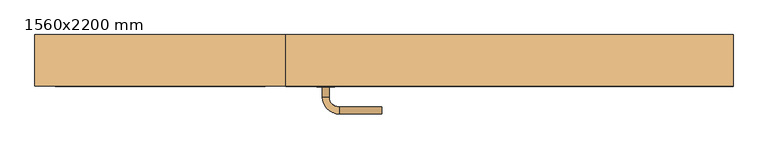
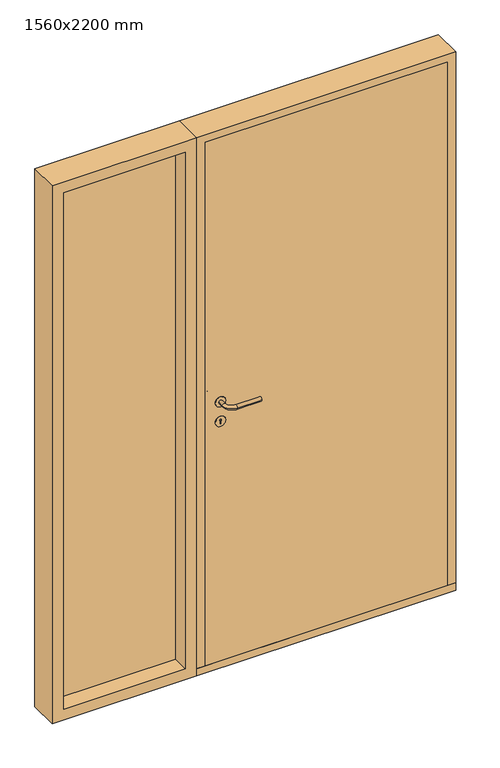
"""IFC4 building model written with IfcOpenShell, lengths in millimetres: door geometry, Ext. Door inw. Window Assembly : 1560x2200 mm."""

from ifc_helpers import new_model, si_unit, point, frame, frame_2d, origin, place, context, project, spatial, polyline, circle_curve, ellipse_curve, trimmed, segment, composite_curve, outline, extrude, faceted_brep, source, transform, mapped, element, save
from ifc_brep_helpers import plane_surface, cylinder_surface, revolved_surface, advanced_brep


def door_1560x2200_mm_08e78651(model_context):
    return source(origin(), model_context, "Body", "SolidModel", [
        extrude(outline(composite_curve([segment(trimmed(circle_curve(frame_2d((1090.0, -130.0)), 20.0), [point((1070.0, -130.0))], [point((1110.0, -130.0))], False, "CARTESIAN"), True, "CONTINUOUS"), segment(trimmed(circle_curve(frame_2d((1090.0, -130.0)), 20.0), [point((1110.0, -130.0))], [point((1070.0, -130.0))], False, "CARTESIAN"), True, "CONTINUOUS")], self_intersect=False)), frame((0.0, 73.0, 0.0), z_axis=(0.0, 1.0, 0.0), x_axis=(0.0, 0.0, 1.0)), (0.0, 0.0, 1.0), 2.0),
        advanced_brep(
        [(-137.5, 73.0, 1090.0), (-122.5, 73.0, 1090.0), (-122.5, 50.5, 1090.0), (-137.5, 50.5, 1090.0), (-100.0, 28.0, 1090.0), (-100.0, 13.0, 1090.0), (-5.0, 28.0, 1090.0), (-5.0, 13.0, 1090.0)],
        [
            (0, 1, circle_curve(frame((-130.0, 73.0, 1090.0), z_axis=(0.0, 1.0, 0.0), x_axis=(1.0, 0.0, 0.0)), 7.5)),
            (1, 0, circle_curve(frame((-130.0, 73.0, 1090.0), z_axis=(0.0, 1.0, 0.0), x_axis=(1.0, 0.0, 0.0)), 7.5)),
            (1, 2),
            (2, 3, circle_curve(frame((-130.0, 50.5, 1090.0), z_axis=(0.0, 1.0, 0.0), x_axis=(1.0, 0.0, 0.0)), 7.5)),
            (3, 0),
            (3, 2, circle_curve(frame((-130.0, 50.5, 1090.0), z_axis=(0.0, 1.0, 0.0), x_axis=(1.0, 0.0, 0.0)), 7.5)),
            (4, 5, circle_curve(frame((-100.0, 20.5, 1090.0), z_axis=(-1.0, 0.0, 0.0), x_axis=(0.0, 1.0, 0.0)), 7.5)),
            (5, 3, circle_curve(frame((-100.0, 50.5, 1090.0), z_axis=(0.0, 0.0, -1.0), x_axis=(-1.0, 0.0, 0.0)), 37.5)),
            (2, 4, circle_curve(frame((-100.0, 50.5, 1090.0), z_axis=(0.0, 0.0, 1.0), x_axis=(-1.0, 0.0, 0.0)), 22.5)),
            (5, 4, circle_curve(frame((-100.0, 20.5, 1090.0), z_axis=(-1.0, 0.0, 0.0), x_axis=(0.0, 1.0, 0.0)), 7.5)),
            (4, 6),
            (6, 7, circle_curve(frame((-5.0, 20.5, 1090.0), z_axis=(-1.0, 0.0, 0.0), x_axis=(0.0, 1.0, 0.0)), 7.5)),
            (7, 5),
            (7, 6, circle_curve(frame((-5.0, 20.5, 1090.0), z_axis=(-1.0, 0.0, 0.0), x_axis=(0.0, 1.0, 0.0)), 7.5)),
        ],
        [
            plane_surface(frame((-130.0, 73.0, 1090.0), z_axis=(0.0, 1.0, 0.0), x_axis=(0.0, 0.0, -1.0))),
            cylinder_surface(frame((-130.0, 73.0, 1090.0), z_axis=(0.0, 1.0, 0.0), x_axis=(1.0, 0.0, 0.0)), 7.5),
            revolved_surface(trimmed(ellipse_curve(frame((-130.0, 50.5, 1090.0), z_axis=(0.0, -1.0, 0.0), x_axis=(1.0, 0.0, 0.0)), 7.5, 7.5), [point((-137.5, 50.5, 1090.0))], [point((-122.5, 50.5, 1090.0))], True, "CARTESIAN"), (-100.0, 50.5, 1090.0), (0.0, 0.0, -1.0)),
            revolved_surface(trimmed(ellipse_curve(frame((-130.0, 50.5, 1090.0), z_axis=(0.0, -1.0, 0.0), x_axis=(1.0, 0.0, 0.0)), 7.5, 7.5), [point((-122.5, 50.5, 1090.0))], [point((-137.5, 50.5, 1090.0))], True, "CARTESIAN"), (-100.0, 50.5, 1090.0), (0.0, 0.0, -1.0)),
            cylinder_surface(frame((-100.0, 20.5, 1090.0), z_axis=(-1.0, 0.0, 0.0), x_axis=(0.0, 1.0, 0.0)), 7.5),
            plane_surface(frame((-5.0, 20.5, 1090.0), z_axis=(1.0, 0.0, 0.0), x_axis=(0.0, 0.0, -1.0))),
        ],
        [
            (0, [[1, 2]]),
            (1, [[3, 4, 5, -2]]),
            (1, [[-5, 6, -3, -1]]),
            (2, [[7, 8, -4, 9]]),
            (3, [[10, -9, -6, -8]]),
            (4, [[11, 12, 13, -7]]),
            (4, [[-13, 14, -11, -10]]),
            (5, [[-12, -14]]),
        ],
    ),
        extrude(outline(composite_curve([segment(trimmed(circle_curve(frame_2d((1010.0, -130.0)), 20.0), [point((990.0, -130.0))], [point((1030.0, -130.0))], False, "CARTESIAN"), True, "CONTINUOUS"), segment(trimmed(circle_curve(frame_2d((1010.0, -130.0)), 20.0), [point((1030.0, -130.0))], [point((990.0, -130.0))], False, "CARTESIAN"), True, "CONTINUOUS")], self_intersect=False), holes=[composite_curve([segment(trimmed(circle_curve(frame_2d((1015.0, -130.0)), 3.0), [point((1012.4019238, -131.5))], [point((1012.4019238, -128.5))], True, "CARTESIAN"), True, "CONTINUOUS"), segment(polyline([(1012.4019238, -128.5), (1000.0, -128.5), (1000.0, -131.5), (1012.4019238, -131.5)]), True, "CONTINUOUS")], self_intersect=False)]), frame((0.0, 73.0, 0.0), z_axis=(0.0, 1.0, 0.0), x_axis=(0.0, 0.0, 1.0)), (0.0, 0.0, 1.0), 2.0),
        extrude(outline(composite_curve([segment(trimmed(circle_curve(frame_2d((1090.0, -130.0)), 20.0), [point((1070.0, -130.0))], [point((1110.0, -130.0))], False, "CARTESIAN"), True, "CONTINUOUS"), segment(trimmed(circle_curve(frame_2d((1090.0, -130.0)), 20.0), [point((1110.0, -130.0))], [point((1070.0, -130.0))], False, "CARTESIAN"), True, "CONTINUOUS")], self_intersect=False)), frame((0.0, 125.0, 0.0), z_axis=(0.0, 1.0, 0.0), x_axis=(0.0, 0.0, 1.0)), (0.0, 0.0, 1.0), 2.0),
        advanced_brep(
        [(-137.5, 127.0, 1090.0), (-122.5, 127.0, 1090.0), (-137.5, 149.5, 1090.0), (-122.5, 149.5, 1090.0), (-100.0, 172.0, 1090.0), (-100.0, 187.0, 1090.0), (-5.0, 187.0, 1090.0), (-5.0, 172.0, 1090.0)],
        [
            (0, 1, circle_curve(frame((-130.0, 127.0, 1090.0), z_axis=(0.0, -1.0, 0.0), x_axis=(1.0, 0.0, 0.0)), 7.5)),
            (1, 0, circle_curve(frame((-130.0, 127.0, 1090.0), z_axis=(0.0, -1.0, 0.0), x_axis=(1.0, 0.0, 0.0)), 7.5)),
            (0, 2),
            (2, 3, circle_curve(frame((-130.0, 149.5, 1090.0), z_axis=(0.0, -1.0, 0.0), x_axis=(1.0, 0.0, 0.0)), 7.5)),
            (3, 1),
            (3, 2, circle_curve(frame((-130.0, 149.5, 1090.0), z_axis=(0.0, -1.0, 0.0), x_axis=(1.0, 0.0, 0.0)), 7.5)),
            (4, 3, circle_curve(frame((-100.0, 149.5, 1090.0), z_axis=(0.0, 0.0, 1.0), x_axis=(-1.0, 0.0, 0.0)), 22.5)),
            (2, 5, circle_curve(frame((-100.0, 149.5, 1090.0), z_axis=(0.0, 0.0, -1.0), x_axis=(-1.0, 0.0, 0.0)), 37.5)),
            (5, 4, circle_curve(frame((-100.0, 179.5, 1090.0), z_axis=(-1.0, 0.0, 0.0), x_axis=(0.0, -1.0, 0.0)), 7.5)),
            (4, 5, circle_curve(frame((-100.0, 179.5, 1090.0), z_axis=(-1.0, 0.0, 0.0), x_axis=(0.0, -1.0, 0.0)), 7.5)),
            (5, 6),
            (6, 7, circle_curve(frame((-5.0, 179.5, 1090.0), z_axis=(-1.0, 0.0, 0.0), x_axis=(0.0, -1.0, 0.0)), 7.5)),
            (7, 4),
            (7, 6, circle_curve(frame((-5.0, 179.5, 1090.0), z_axis=(-1.0, 0.0, 0.0), x_axis=(0.0, -1.0, 0.0)), 7.5)),
        ],
        [
            plane_surface(frame((-130.0, 127.0, 1090.0), z_axis=(0.0, -1.0, 0.0), x_axis=(0.0, 0.0, -1.0))),
            cylinder_surface(frame((-130.0, 127.0, 1090.0), z_axis=(0.0, -1.0, 0.0), x_axis=(1.0, 0.0, 0.0)), 7.5),
            revolved_surface(trimmed(ellipse_curve(frame((-130.0, 149.5, 1090.0), z_axis=(0.0, -1.0, 0.0), x_axis=(1.0, 0.0, 0.0)), 7.5, 7.5), [point((-137.5, 149.5, 1090.0))], [point((-122.5, 149.5, 1090.0))], True, "CARTESIAN"), (-100.0, 149.5, 1090.0), (0.0, 0.0, -1.0)),
            revolved_surface(trimmed(ellipse_curve(frame((-130.0, 149.5, 1090.0), z_axis=(0.0, -1.0, 0.0), x_axis=(1.0, 0.0, 0.0)), 7.5, 7.5), [point((-122.5, 149.5, 1090.0))], [point((-137.5, 149.5, 1090.0))], True, "CARTESIAN"), (-100.0, 149.5, 1090.0), (0.0, 0.0, -1.0)),
            cylinder_surface(frame((-100.0, 179.5, 1090.0), z_axis=(-1.0, 0.0, 0.0), x_axis=(0.0, -1.0, 0.0)), 7.5),
            plane_surface(frame((-5.0, 179.5, 1090.0), z_axis=(1.0, 0.0, 0.0), x_axis=(0.0, 0.0, -1.0))),
        ],
        [
            (0, [[1, 2]]),
            (1, [[-1, 3, 4, 5]]),
            (1, [[-2, -5, 6, -3]]),
            (2, [[7, -4, 8, 9]]),
            (3, [[-8, -6, -7, 10]]),
            (4, [[-9, 11, 12, 13]]),
            (4, [[-10, -13, 14, -11]]),
            (5, [[-14, -12]]),
        ],
    ),
        extrude(outline(composite_curve([segment(trimmed(circle_curve(frame_2d((1010.0, -130.0)), 20.0), [point((990.0, -130.0))], [point((1030.0, -130.0))], False, "CARTESIAN"), True, "CONTINUOUS"), segment(trimmed(circle_curve(frame_2d((1010.0, -130.0)), 20.0), [point((1030.0, -130.0))], [point((990.0, -130.0))], False, "CARTESIAN"), True, "CONTINUOUS")], self_intersect=False), holes=[composite_curve([segment(trimmed(circle_curve(frame_2d((1015.0, -130.0)), 3.0), [point((1012.4019238, -131.5))], [point((1012.4019238, -128.5))], True, "CARTESIAN"), True, "CONTINUOUS"), segment(polyline([(1012.4019238, -128.5), (1000.0, -128.5), (1000.0, -131.5), (1012.4019238, -131.5)]), True, "CONTINUOUS")], self_intersect=False)]), frame((0.0, 125.0, 0.0), z_axis=(0.0, 1.0, 0.0), x_axis=(0.0, 0.0, 1.0)), (0.0, 0.0, 1.0), 2.0),
        extrude(outline(polyline([(125.0, 45.0), (190.0, 45.0), (190.0, 0.0), (75.0, 0.0), (75.0, 30.0), (125.0, 30.0), (125.0, 45.0)])), frame((-220.0, 0.0, 0.0), z_axis=(1.0, 0.0, 0.0), x_axis=(0.0, 1.0, 0.0)), (0.0, 0.0, 1.0), 1000.0),
        faceted_brep([(-190.0, 125.0, 2170.0), (-190.0, 125.0, 45.0), (-175.0, 125.0, 45.0), (-175.0, 125.0, 2155.0), (735.0, 125.0, 2155.0), (735.0, 125.0, 45.0), (750.0, 125.0, 45.0), (750.0, 125.0, 2170.0), (-190.0, 75.0, 2170.0), (-190.0, 75.0, 30.0), (-190.0, 125.0, 30.0), (750.0, 125.0, 30.0), (780.0, 125.0, 45.0), (780.0, 125.0, 30.0), (-220.0, 125.0, 30.0), (-220.0, 125.0, 45.0), (-220.0, 75.0, 30.0), (780.0, 75.0, 30.0), (750.0, 75.0, 30.0), (-220.0, 75.0, 2200.0), (750.0, 75.0, 2170.0), (780.0, 75.0, 2200.0), (735.0, 190.0, 45.0), (780.0, 190.0, 45.0), (-220.0, 190.0, 45.0), (-175.0, 190.0, 45.0), (735.0, 190.0, 2155.0), (-175.0, 190.0, 2155.0), (-220.0, 190.0, 2200.0), (780.0, 190.0, 2200.0)], [[[0, 1, 2, 3, 4, 5, 6, 7]], [[8, 9, 10, 1, 0]], [[11, 6, 12, 13]], [[14, 15, 1, 10]], [[10, 9, 16, 14]], [[13, 17, 18, 11]], [[19, 16, 9, 8, 20, 18, 17, 21]], [[7, 6, 11, 18, 20]], [[6, 5, 22, 23, 12]], [[15, 24, 25, 2, 1]], [[26, 22, 5, 4]], [[3, 2, 25, 27]], [[27, 25, 24, 28, 29, 23, 22, 26]], [[21, 17, 13, 12, 23, 29]], [[28, 24, 15, 14, 16, 19]], [[0, 7, 20, 8]], [[3, 27, 26, 4]], [[28, 19, 21, 29]]]),
        extrude(outline(polyline([(750.0, 125.0), (750.0, 75.0), (-190.0, 75.0), (-190.0, 125.0), (750.0, 125.0)])), frame((0.0, 0.0, 30.0), z_axis=(0.0, 0.0, 1.0), x_axis=(1.0, 0.0, 0.0)), (0.0, 0.0, 1.0), 2140.0),
        extrude(outline(polyline([(-265.0, 140.0), (-735.0, 140.0), (-735.0, 162.0), (-265.0, 162.0), (-265.0, 140.0)])), frame((0.0, 0.0, 45.0), z_axis=(0.0, 0.0, 1.0), x_axis=(1.0, 0.0, 0.0)), (0.0, 0.0, 1.0), 2110.0),
        extrude(outline(polyline([(2200.0, -220.0), (2200.0, -780.0), (0.0, -780.0), (0.0, -220.0), (2200.0, -220.0)]), holes=[polyline([(45.0, -265.0), (45.0, -735.0), (2155.0, -735.0), (2155.0, -265.0), (45.0, -265.0)])]), frame((0.0, 75.0, 0.0), z_axis=(0.0, 1.0, 0.0), x_axis=(0.0, 0.0, 1.0)), (0.0, 0.0, 1.0), 115.0),
    ])


if __name__ == "__main__":
    model = new_model("IFC4")
    model_context = context("Model", 3, world=origin())
    ifc_project = project(units=[si_unit("LENGTHUNIT", "METRE", prefix="MILLI")], contexts=[model_context])
    site = spatial("IfcSite", under=ifc_project)
    building = spatial("IfcBuilding", under=site)
    placement = place(None, origin())
    door_1560x2200_mm_shape = door_1560x2200_mm_08e78651(model_context)
    element("IfcDoor", 1, ObjectType="Ext. Door inw. Window Assembly : 1560x2200 mm", at=placement, inside=building, context=model_context, shape_type="MappedRepresentation", body=[
        mapped(door_1560x2200_mm_shape, transform((0.0, 0.0, 0.0), x_axis=(1.0, 0.0, 0.0), y_axis=(0.0, 1.0, 0.0), z_axis=(0.0, 0.0, 1.0))),
    ])
    save(model, "model.ifc")
